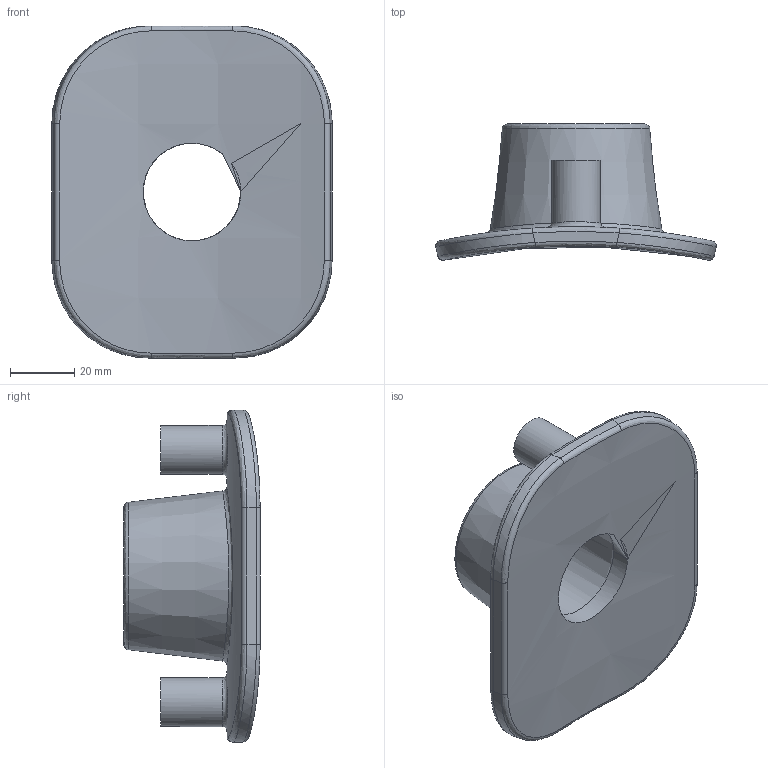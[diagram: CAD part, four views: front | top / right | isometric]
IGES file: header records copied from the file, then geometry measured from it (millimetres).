
Global section: file name: 493803400010_493803900010.ipt; native system: Autodesk Inventor 2015; preprocessor: unknown; author: KIM; date: 20190124.135359; units: millimetre
Bounding box: 86.97 x 42.29 x 103 mm (x, y, z)
Volume: 90570.2 mm3; surface area: 26327.8 mm2
Topology: 1 solids, 1 shells, 39 faces, 88 edges, 54 vertices
Faces by surface type: bspline 12, cylinder 11, revolution 8, plane 7, cone 1
Full cylindrical faces by diameter (mm): 15.146 x2
